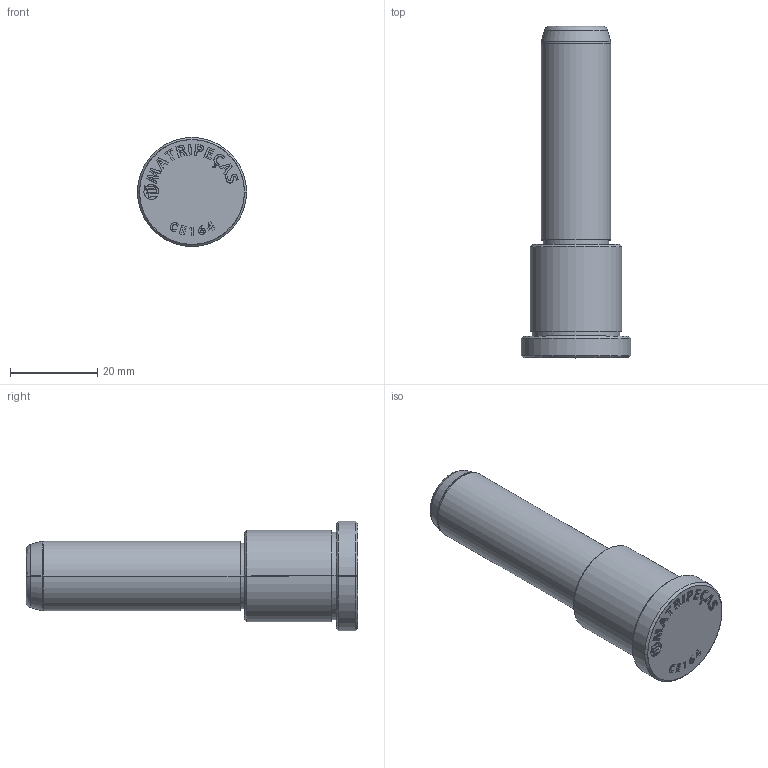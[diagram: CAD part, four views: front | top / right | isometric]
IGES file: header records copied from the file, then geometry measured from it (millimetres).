
Start section: SolidWorks IGES file using analytic representation for surfaces
Global section: file name: D:\Cleonir_particular\Matripeças\Colunas Conjunto Extrator\CE164.IGS; native system: SolidWorks 2013; preprocessor: SolidWorks 2013; author: Cleonir; date: 130307.104031; units: millimetre
Bounding box: 25 x 76 x 25 mm (x, y, z)
Surface area: 5301.7 mm2 (no closed solid volume)
Topology: 0 solids, 0 shells, 267 faces, 3278 edges, 3278 vertices
Faces by surface type: bspline 238, revolution 29
